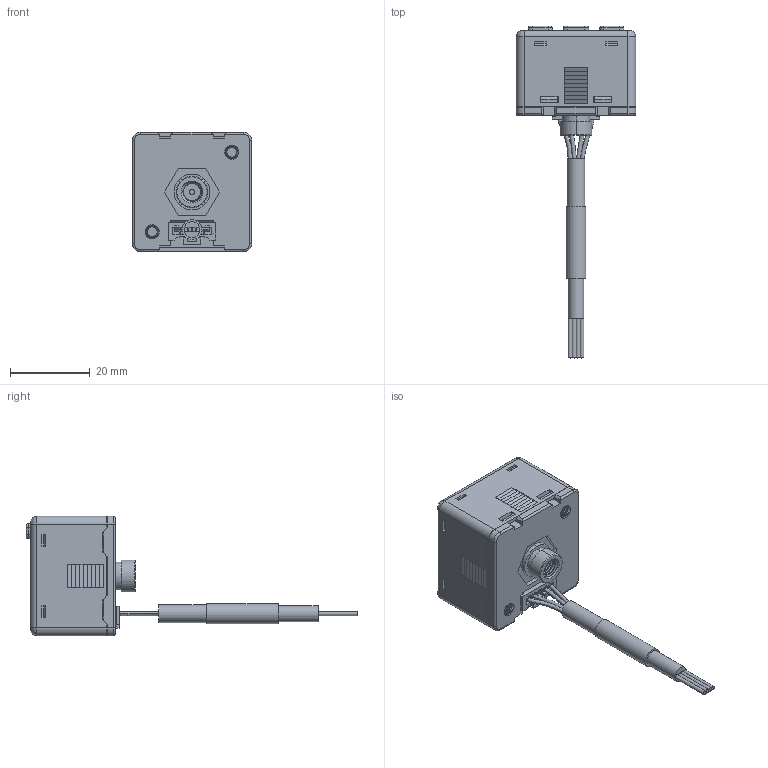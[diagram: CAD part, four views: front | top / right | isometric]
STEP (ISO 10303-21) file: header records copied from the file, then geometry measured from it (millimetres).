
FILE_DESCRIPTION(('STEP AP203'),'1');
FILE_NAME('-M5_3D.stp','2024-12-10T00:57:24',(' '),(' '),'Spatial InterOp 3D',' ',' ');
FILE_SCHEMA(('CONFIG_CONTROL_DESIGN'));
Length unit declared in the file: millimetre
Products named in the file (1): 1
Bounding box: 30 x 83.35 x 30 mm (x, y, z)
Surface area: 6780.8 mm2 (no closed solid volume)
Topology: 0 solids, 741 shells, 768 faces, 3733 edges, 3709 vertices
Faces by surface type: plane 579, cylinder 122, bspline 38, torus 18, cone 11
Full cylindrical faces by diameter (mm): 1 x6, 4 x1, 4.5 x1, 5 x1
Entity records: 45174 total; most frequent: CARTESIAN_POINT 17673, DIRECTION 5214, ORIENTED_EDGE 3768, EDGE_CURVE 3723, VERTEX_POINT 3709, LINE 3062, VECTOR 3062, AXIS2_PLACEMENT_3D 1076
